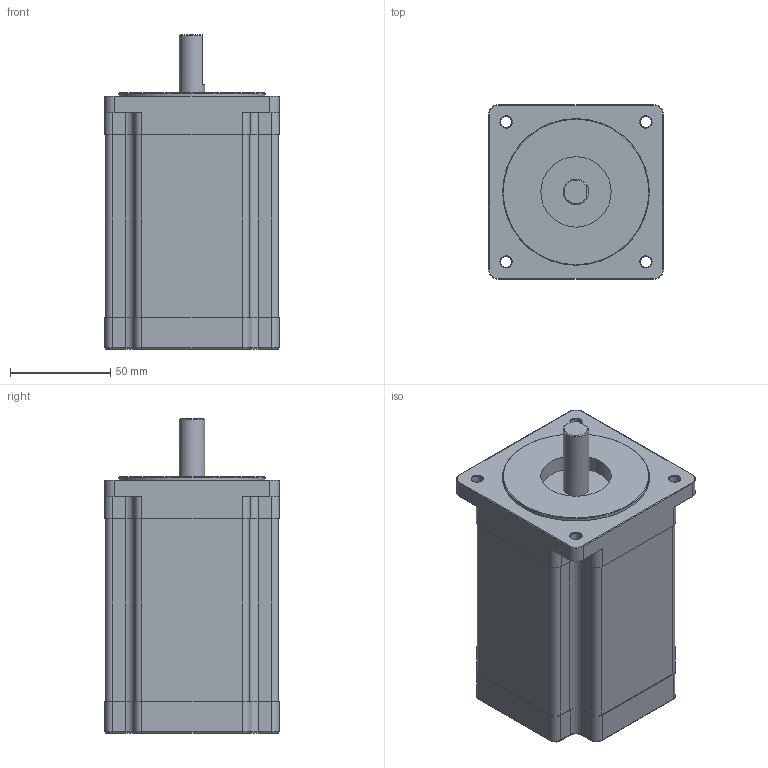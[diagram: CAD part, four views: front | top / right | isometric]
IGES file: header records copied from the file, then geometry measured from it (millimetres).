
Global section: file name: No Iges File Name specified; native system: Autodesk Inventor 2012; preprocessor: AutoDesk Inventor Iges Exporter R2012; author: Sergio Martins; date: 20121015.161912; units: millimetre
Bounding box: 87 x 87 x 156.55 mm (x, y, z)
Volume: 842517.4 mm3; surface area: 59275.4 mm2
Topology: 1 solids, 1 shells, 345 faces, 930 edges, 609 vertices
Faces by surface type: plane 212, bspline 48, cylinder 46, revolution 21, torus 16, cone 2
Full cylindrical faces by diameter (mm): 12.7 x1, 73 x1
